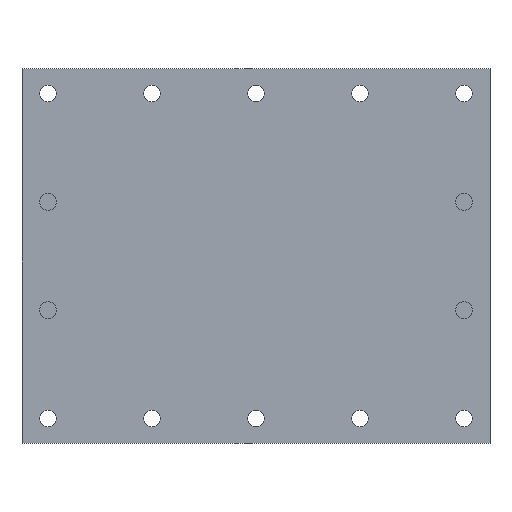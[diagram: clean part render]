
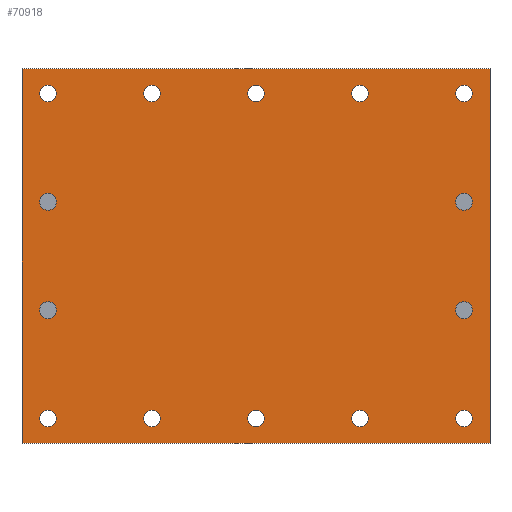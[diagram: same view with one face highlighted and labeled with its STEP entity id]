
A CAD part, top view. The second image highlights one B-rep face of the part: STEP entity #70918.
In plain terms, the highlighted planar face has unit normal (0, 0, 1).
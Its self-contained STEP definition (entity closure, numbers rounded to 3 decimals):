
#3252=FACE_BOUND('',#11629,.T.);
#3253=FACE_BOUND('',#11630,.T.);
#3254=FACE_BOUND('',#11631,.T.);
#3255=FACE_BOUND('',#11632,.T.);
#3256=FACE_BOUND('',#11633,.T.);
#3257=FACE_BOUND('',#11634,.T.);
#3258=FACE_BOUND('',#11635,.T.);
#3259=FACE_BOUND('',#11636,.T.);
#3260=FACE_BOUND('',#11637,.T.);
#3261=FACE_BOUND('',#11638,.T.);
#3262=FACE_BOUND('',#11639,.T.);
#3263=FACE_BOUND('',#11640,.T.);
#3264=FACE_BOUND('',#11641,.T.);
#3265=FACE_BOUND('',#11642,.T.);
#7436=FACE_OUTER_BOUND('',#11628,.T.);
#11628=EDGE_LOOP('',(#58008,#58009,#58010,#58011));
#11629=EDGE_LOOP('',(#58012));
#11630=EDGE_LOOP('',(#58013));
#11631=EDGE_LOOP('',(#58014));
#11632=EDGE_LOOP('',(#58015));
#11633=EDGE_LOOP('',(#58016));
#11634=EDGE_LOOP('',(#58017));
#11635=EDGE_LOOP('',(#58018));
#11636=EDGE_LOOP('',(#58019));
#11637=EDGE_LOOP('',(#58020));
#11638=EDGE_LOOP('',(#58021));
#11639=EDGE_LOOP('',(#58022));
#11640=EDGE_LOOP('',(#58023));
#11641=EDGE_LOOP('',(#58024));
#11642=EDGE_LOOP('',(#58025));
#14372=CIRCLE('',#76203,19.5);
#14386=CIRCLE('',#76219,19.5);
#14387=CIRCLE('',#76220,19.5);
#14388=CIRCLE('',#76221,19.5);
#14389=CIRCLE('',#76222,19.5);
#14390=CIRCLE('',#76223,19.5);
#14391=CIRCLE('',#76224,19.5);
#14392=CIRCLE('',#76225,19.5);
#14393=CIRCLE('',#76226,19.5);
#14394=CIRCLE('',#76227,19.5);
#14395=CIRCLE('',#76228,19.5);
#14396=CIRCLE('',#76229,19.5);
#14397=CIRCLE('',#76230,19.5);
#14398=CIRCLE('',#76231,19.5);
#19550=LINE('',#132692,#24967);
#19551=LINE('',#132694,#24968);
#19552=LINE('',#132696,#24969);
#19553=LINE('',#132697,#24970);
#24967=VECTOR('',#90920,865.);
#24968=VECTOR('',#90921,1080.);
#24969=VECTOR('',#90922,865.);
#24970=VECTOR('',#90923,1080.);
#31129=VERTEX_POINT('',#132620);
#31163=VERTEX_POINT('',#132690);
#31164=VERTEX_POINT('',#132691);
#31165=VERTEX_POINT('',#132693);
#31166=VERTEX_POINT('',#132695);
#31167=VERTEX_POINT('',#132698);
#31168=VERTEX_POINT('',#132700);
#31169=VERTEX_POINT('',#132702);
#31170=VERTEX_POINT('',#132704);
#31171=VERTEX_POINT('',#132706);
#31172=VERTEX_POINT('',#132708);
#31173=VERTEX_POINT('',#132710);
#31174=VERTEX_POINT('',#132712);
#31175=VERTEX_POINT('',#132714);
#31176=VERTEX_POINT('',#132716);
#31177=VERTEX_POINT('',#132718);
#31178=VERTEX_POINT('',#132720);
#31179=VERTEX_POINT('',#132722);
#40207=EDGE_CURVE('',#31129,#31129,#14372,.T.);
#40241=EDGE_CURVE('',#31163,#31164,#19550,.T.);
#40242=EDGE_CURVE('',#31165,#31163,#19551,.T.);
#40243=EDGE_CURVE('',#31166,#31165,#19552,.T.);
#40244=EDGE_CURVE('',#31164,#31166,#19553,.T.);
#40245=EDGE_CURVE('',#31167,#31167,#14386,.T.);
#40246=EDGE_CURVE('',#31168,#31168,#14387,.T.);
#40247=EDGE_CURVE('',#31169,#31169,#14388,.T.);
#40248=EDGE_CURVE('',#31170,#31170,#14389,.T.);
#40249=EDGE_CURVE('',#31171,#31171,#14390,.T.);
#40250=EDGE_CURVE('',#31172,#31172,#14391,.T.);
#40251=EDGE_CURVE('',#31173,#31173,#14392,.T.);
#40252=EDGE_CURVE('',#31174,#31174,#14393,.T.);
#40253=EDGE_CURVE('',#31175,#31175,#14394,.T.);
#40254=EDGE_CURVE('',#31176,#31176,#14395,.T.);
#40255=EDGE_CURVE('',#31177,#31177,#14396,.T.);
#40256=EDGE_CURVE('',#31178,#31178,#14397,.T.);
#40257=EDGE_CURVE('',#31179,#31179,#14398,.T.);
#58008=ORIENTED_EDGE('',*,*,#40241,.F.);
#58009=ORIENTED_EDGE('',*,*,#40242,.F.);
#58010=ORIENTED_EDGE('',*,*,#40243,.F.);
#58011=ORIENTED_EDGE('',*,*,#40244,.F.);
#58012=ORIENTED_EDGE('',*,*,#40207,.T.);
#58013=ORIENTED_EDGE('',*,*,#40245,.T.);
#58014=ORIENTED_EDGE('',*,*,#40246,.T.);
#58015=ORIENTED_EDGE('',*,*,#40247,.T.);
#58016=ORIENTED_EDGE('',*,*,#40248,.T.);
#58017=ORIENTED_EDGE('',*,*,#40249,.T.);
#58018=ORIENTED_EDGE('',*,*,#40250,.T.);
#58019=ORIENTED_EDGE('',*,*,#40251,.T.);
#58020=ORIENTED_EDGE('',*,*,#40252,.T.);
#58021=ORIENTED_EDGE('',*,*,#40253,.T.);
#58022=ORIENTED_EDGE('',*,*,#40254,.T.);
#58023=ORIENTED_EDGE('',*,*,#40255,.T.);
#58024=ORIENTED_EDGE('',*,*,#40256,.T.);
#58025=ORIENTED_EDGE('',*,*,#40257,.T.);
#63829=PLANE('',#76218);
#70918=ADVANCED_FACE('',(#7436,#3252,#3253,#3254,#3255,#3256,#3257,#3258,
#3259,#3260,#3261,#3262,#3263,#3264,#3265),#63829,.T.);
#76203=AXIS2_PLACEMENT_3D('',#132621,#90868,#90869);
#76218=AXIS2_PLACEMENT_3D('',#132689,#90918,#90919);
#76219=AXIS2_PLACEMENT_3D('',#132699,#90924,#90925);
#76220=AXIS2_PLACEMENT_3D('',#132701,#90926,#90927);
#76221=AXIS2_PLACEMENT_3D('',#132703,#90928,#90929);
#76222=AXIS2_PLACEMENT_3D('',#132705,#90930,#90931);
#76223=AXIS2_PLACEMENT_3D('',#132707,#90932,#90933);
#76224=AXIS2_PLACEMENT_3D('',#132709,#90934,#90935);
#76225=AXIS2_PLACEMENT_3D('',#132711,#90936,#90937);
#76226=AXIS2_PLACEMENT_3D('',#132713,#90938,#90939);
#76227=AXIS2_PLACEMENT_3D('',#132715,#90940,#90941);
#76228=AXIS2_PLACEMENT_3D('',#132717,#90942,#90943);
#76229=AXIS2_PLACEMENT_3D('',#132719,#90944,#90945);
#76230=AXIS2_PLACEMENT_3D('',#132721,#90946,#90947);
#76231=AXIS2_PLACEMENT_3D('',#132723,#90948,#90949);
#90868=DIRECTION('center_axis',(0.,0.,-1.));
#90869=DIRECTION('ref_axis',(1.,0.,0.));
#90918=DIRECTION('center_axis',(0.,0.,1.));
#90919=DIRECTION('ref_axis',(1.,0.,0.));
#90920=DIRECTION('',(0.,-1.,0.));
#90921=DIRECTION('',(1.,0.,0.));
#90922=DIRECTION('',(0.,1.,0.));
#90923=DIRECTION('',(-1.,0.,0.));
#90924=DIRECTION('center_axis',(0.,0.,-1.));
#90925=DIRECTION('ref_axis',(1.,0.,0.));
#90926=DIRECTION('center_axis',(0.,0.,-1.));
#90927=DIRECTION('ref_axis',(1.,0.,0.));
#90928=DIRECTION('center_axis',(0.,0.,-1.));
#90929=DIRECTION('ref_axis',(1.,0.,0.));
#90930=DIRECTION('center_axis',(0.,0.,-1.));
#90931=DIRECTION('ref_axis',(1.,0.,0.));
#90932=DIRECTION('center_axis',(0.,0.,-1.));
#90933=DIRECTION('ref_axis',(1.,0.,0.));
#90934=DIRECTION('center_axis',(0.,0.,-1.));
#90935=DIRECTION('ref_axis',(1.,0.,0.));
#90936=DIRECTION('center_axis',(0.,0.,-1.));
#90937=DIRECTION('ref_axis',(1.,0.,0.));
#90938=DIRECTION('center_axis',(0.,0.,-1.));
#90939=DIRECTION('ref_axis',(1.,0.,0.));
#90940=DIRECTION('center_axis',(0.,0.,-1.));
#90941=DIRECTION('ref_axis',(1.,0.,0.));
#90942=DIRECTION('center_axis',(0.,0.,-1.));
#90943=DIRECTION('ref_axis',(1.,0.,0.));
#90944=DIRECTION('center_axis',(0.,0.,-1.));
#90945=DIRECTION('ref_axis',(1.,0.,0.));
#90946=DIRECTION('center_axis',(0.,0.,-1.));
#90947=DIRECTION('ref_axis',(1.,0.,0.));
#90948=DIRECTION('center_axis',(0.,0.,-1.));
#90949=DIRECTION('ref_axis',(1.,0.,0.));
#132620=CARTESIAN_POINT('',(91.737,25.917,397.583));
#132621=CARTESIAN_POINT('Origin',(72.237,25.917,397.583));
#132689=CARTESIAN_POINT('Origin',(-407.763,-349.083,397.583));
#132690=CARTESIAN_POINT('',(132.237,83.417,397.583));
#132691=CARTESIAN_POINT('',(132.237,-781.583,397.583));
#132692=CARTESIAN_POINT('',(132.237,83.417,397.583));
#132693=CARTESIAN_POINT('',(-947.763,83.417,397.583));
#132694=CARTESIAN_POINT('',(-947.763,83.417,397.583));
#132695=CARTESIAN_POINT('',(-947.763,-781.583,397.583));
#132696=CARTESIAN_POINT('',(-947.763,-781.583,397.583));
#132697=CARTESIAN_POINT('',(132.237,-781.583,397.583));
#132698=CARTESIAN_POINT('',(-388.263,25.917,397.583));
#132699=CARTESIAN_POINT('Origin',(-407.763,25.917,397.583));
#132700=CARTESIAN_POINT('',(91.737,-474.083,397.583));
#132701=CARTESIAN_POINT('Origin',(72.237,-474.083,397.583));
#132702=CARTESIAN_POINT('',(-628.263,25.917,397.583));
#132703=CARTESIAN_POINT('Origin',(-647.763,25.917,397.583));
#132704=CARTESIAN_POINT('',(-628.263,-724.083,397.583));
#132705=CARTESIAN_POINT('Origin',(-647.763,-724.083,397.583));
#132706=CARTESIAN_POINT('',(-868.263,-224.083,397.583));
#132707=CARTESIAN_POINT('Origin',(-887.763,-224.083,397.583));
#132708=CARTESIAN_POINT('',(-868.263,-724.083,397.583));
#132709=CARTESIAN_POINT('Origin',(-887.763,-724.083,397.583));
#132710=CARTESIAN_POINT('',(-868.263,-474.083,397.583));
#132711=CARTESIAN_POINT('Origin',(-887.763,-474.083,397.583));
#132712=CARTESIAN_POINT('',(-868.263,25.917,397.583));
#132713=CARTESIAN_POINT('Origin',(-887.763,25.917,397.583));
#132714=CARTESIAN_POINT('',(-388.263,-724.083,397.583));
#132715=CARTESIAN_POINT('Origin',(-407.763,-724.083,397.583));
#132716=CARTESIAN_POINT('',(-148.263,-724.083,397.583));
#132717=CARTESIAN_POINT('Origin',(-167.763,-724.083,397.583));
#132718=CARTESIAN_POINT('',(91.737,-224.083,397.583));
#132719=CARTESIAN_POINT('Origin',(72.237,-224.083,397.583));
#132720=CARTESIAN_POINT('',(91.737,-724.083,397.583));
#132721=CARTESIAN_POINT('Origin',(72.237,-724.083,397.583));
#132722=CARTESIAN_POINT('',(-148.263,25.917,397.583));
#132723=CARTESIAN_POINT('Origin',(-167.763,25.917,397.583));
